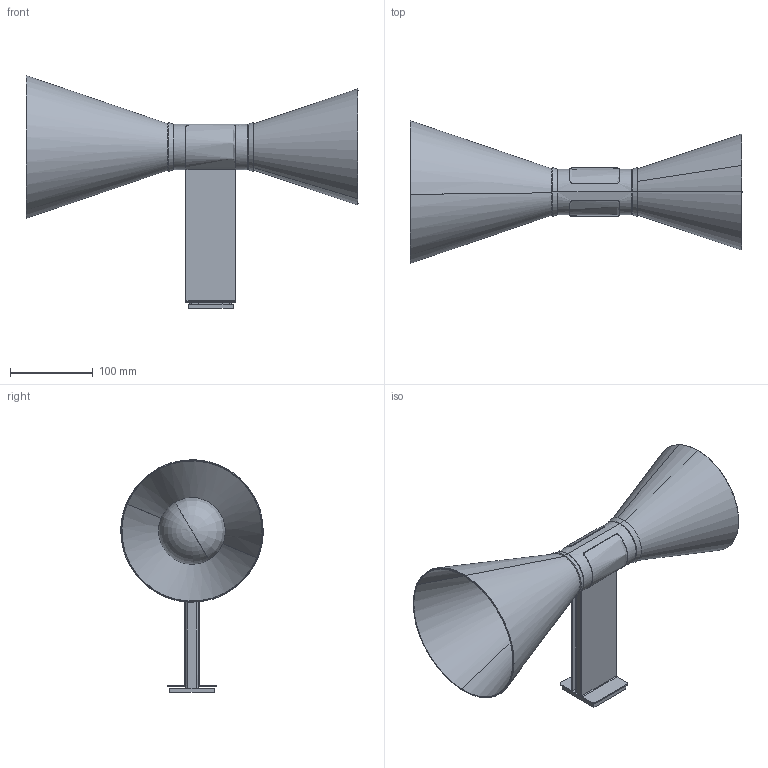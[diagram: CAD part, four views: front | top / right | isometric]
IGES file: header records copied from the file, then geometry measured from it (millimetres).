
Start section: SolidWorks IGES file using analytic representation for surfaces
Global section: file name: C:\Users\tungari.NEMOLIGHTING\Desktop\3D\WALL\3D_APPLIQUE_DE_MARSEILLE\DEF\3D_APPLIQUE_DE_MARSEILLE.IGS; native system: SolidWorks 2016; preprocessor: SolidWorks 2016; author: tungari; date: 180312.103141; units: millimetre
Bounding box: 400.26 x 171.89 x 280.45 mm (x, y, z)
Surface area: 591591.3 mm2 (no closed solid volume)
Topology: 0 solids, 0 shells, 171 faces, 2148 edges, 2146 vertices
Faces by surface type: revolution 88, bspline 83
